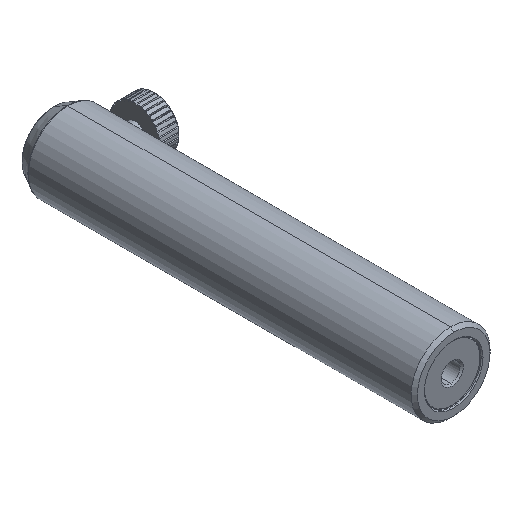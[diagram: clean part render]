
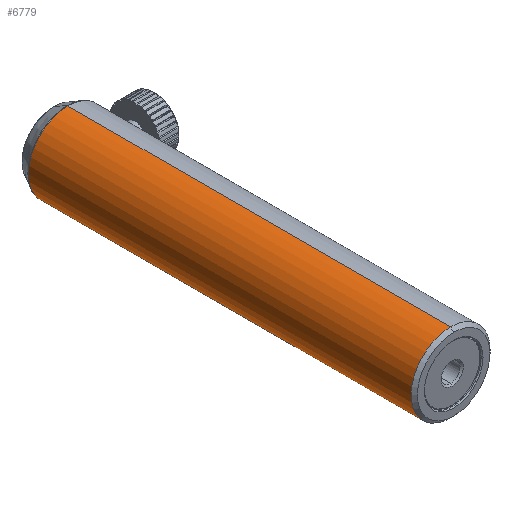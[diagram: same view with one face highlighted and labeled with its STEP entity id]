
A CAD part, isometric view. The second image highlights one B-rep face of the part: STEP entity #6779.
In plain terms, the highlighted cylindrical face has radius 12.5 mm (diameter 25 mm), a partial arc.
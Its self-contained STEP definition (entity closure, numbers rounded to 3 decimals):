
#210 = CARTESIAN_POINT ( 'NONE',  ( -6.15, 115.258, 12.5 ) ) ;
#342 = ORIENTED_EDGE ( 'NONE', *, *, #3983, .T. ) ;
#404 = LINE ( 'NONE', #2491, #907 ) ;
#907 = VECTOR ( 'NONE', #4595, 1000. ) ;
#1136 = CIRCLE ( 'NONE', #4104, 12.5 ) ;
#1193 = DIRECTION ( 'NONE',  ( 0., 0., -1. ) ) ;
#1233 = CARTESIAN_POINT ( 'NONE',  ( -6.15, 115.258, 0. ) ) ;
#1558 = DIRECTION ( 'NONE',  ( 0., -1., 0. ) ) ;
#1568 = VERTEX_POINT ( 'NONE', #1602 ) ;
#1591 = AXIS2_PLACEMENT_3D ( 'NONE', #1233, #3321, #5442 ) ;
#1602 = CARTESIAN_POINT ( 'NONE',  ( -6.15, -6.112, -12.5 ) ) ;
#1714 = CYLINDRICAL_SURFACE ( 'NONE', #3997, 12.5 ) ;
#1917 = EDGE_CURVE ( 'NONE', #1568, #6485, #1136, .T. ) ;
#1996 = DIRECTION ( 'NONE',  ( 0., 0., 1. ) ) ;
#2214 = CARTESIAN_POINT ( 'NONE',  ( -6.15, 115.258, -12.5 ) ) ;
#2491 = CARTESIAN_POINT ( 'NONE',  ( -6.15, 119.888, -12.5 ) ) ;
#2502 = EDGE_CURVE ( 'NONE', #3473, #5364, #4552, .T. ) ;
#3169 = EDGE_CURVE ( 'NONE', #3473, #6485, #4166, .T. ) ;
#3321 = DIRECTION ( 'NONE',  ( 0., -1., 0. ) ) ;
#3343 = ORIENTED_EDGE ( 'NONE', *, *, #3169, .F. ) ;
#3473 = VERTEX_POINT ( 'NONE', #210 ) ;
#3809 = CARTESIAN_POINT ( 'NONE',  ( -6.15, 119.888, 0. ) ) ;
#3983 = EDGE_CURVE ( 'NONE', #5364, #1568, #404, .T. ) ;
#3997 = AXIS2_PLACEMENT_3D ( 'NONE', #3809, #5908, #1193 ) ;
#4104 = AXIS2_PLACEMENT_3D ( 'NONE', #4616, #6733, #1996 ) ;
#4166 = LINE ( 'NONE', #6281, #6440 ) ;
#4253 = EDGE_LOOP ( 'NONE', ( #3343, #4822, #342, #6214 ) ) ;
#4552 = CIRCLE ( 'NONE', #1591, 12.5 ) ;
#4595 = DIRECTION ( 'NONE',  ( 0., -1., 0. ) ) ;
#4616 = CARTESIAN_POINT ( 'NONE',  ( -6.15, -6.112, 0. ) ) ;
#4822 = ORIENTED_EDGE ( 'NONE', *, *, #2502, .T. ) ;
#5364 = VERTEX_POINT ( 'NONE', #2214 ) ;
#5442 = DIRECTION ( 'NONE',  ( 0., 0., 1. ) ) ;
#5908 = DIRECTION ( 'NONE',  ( 0., -1., 0. ) ) ;
#6059 = CARTESIAN_POINT ( 'NONE',  ( -6.15, -6.112, 12.5 ) ) ;
#6214 = ORIENTED_EDGE ( 'NONE', *, *, #1917, .T. ) ;
#6281 = CARTESIAN_POINT ( 'NONE',  ( -6.15, 119.888, 12.5 ) ) ;
#6437 = FACE_OUTER_BOUND ( 'NONE', #4253, .T. ) ;
#6440 = VECTOR ( 'NONE', #1558, 1000. ) ;
#6485 = VERTEX_POINT ( 'NONE', #6059 ) ;
#6733 = DIRECTION ( 'NONE',  ( 0., 1., 0. ) ) ;
#6779 = ADVANCED_FACE ( 'NONE', ( #6437 ), #1714, .T. ) ;
